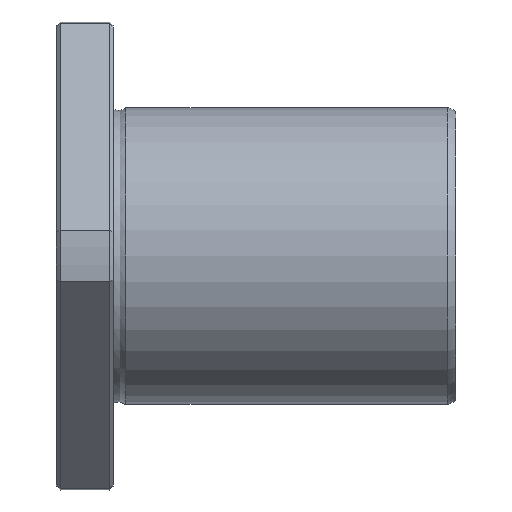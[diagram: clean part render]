
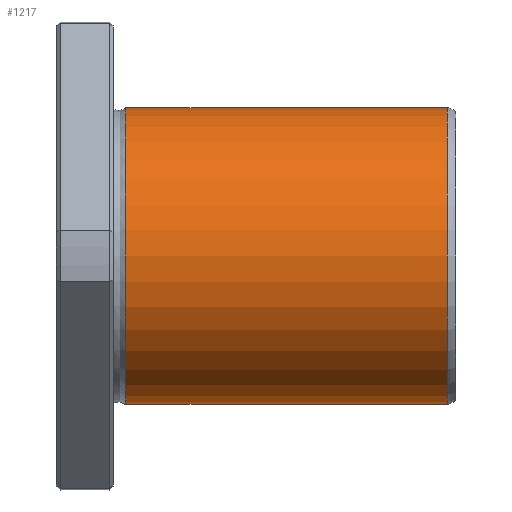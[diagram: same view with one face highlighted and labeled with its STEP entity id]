
A CAD part, front view. The second image highlights one B-rep face of the part: STEP entity #1217.
In plain terms, the highlighted cylindrical face has radius 26 mm (diameter 52 mm), a full revolution.
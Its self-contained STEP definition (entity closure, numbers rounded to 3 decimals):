
#1183=CARTESIAN_POINT('',(68.502,0.0,26.));
#1184=VERTEX_POINT('',#1183);
#1185=CARTESIAN_POINT('',(68.502,0.0,0.0));
#1186=DIRECTION('',(-1.0,0.0,0.0));
#1187=DIRECTION('',(0.0,0.0,1.0));
#1188=AXIS2_PLACEMENT_3D('',#1185,#1186,#1187);
#1189=CIRCLE('',#1188,26.);
#1190=EDGE_CURVE('',#1184,#1184,#1189,.T.);
#1198=CARTESIAN_POINT('',(40.362,0.0,0.0));
#1199=DIRECTION('',(-1.0,0.0,0.0));
#1200=DIRECTION('',(0.0,0.0,1.0));
#1201=AXIS2_PLACEMENT_3D('',#1198,#1199,#1200);
#1202=CYLINDRICAL_SURFACE('',#1201,26.);
#1203=CARTESIAN_POINT('',(12.223,0.0,26.0));
#1204=VERTEX_POINT('',#1203);
#1205=CARTESIAN_POINT('',(12.223,0.0,0.0));
#1206=DIRECTION('',(-1.0,0.0,0.0));
#1207=DIRECTION('',(0.0,0.0,1.0));
#1208=AXIS2_PLACEMENT_3D('',#1205,#1206,#1207);
#1209=CIRCLE('',#1208,26.0);
#1210=EDGE_CURVE('',#1204,#1204,#1209,.T.);
#1211=ORIENTED_EDGE('',*,*,#1210,.F.);
#1212=EDGE_LOOP('',(#1211));
#1213=FACE_OUTER_BOUND('',#1212,.T.);
#1214=ORIENTED_EDGE('',*,*,#1190,.T.);
#1215=EDGE_LOOP('',(#1214));
#1216=FACE_BOUND('',#1215,.T.);
#1217=ADVANCED_FACE('',(#1213,#1216),#1202,.T.);
